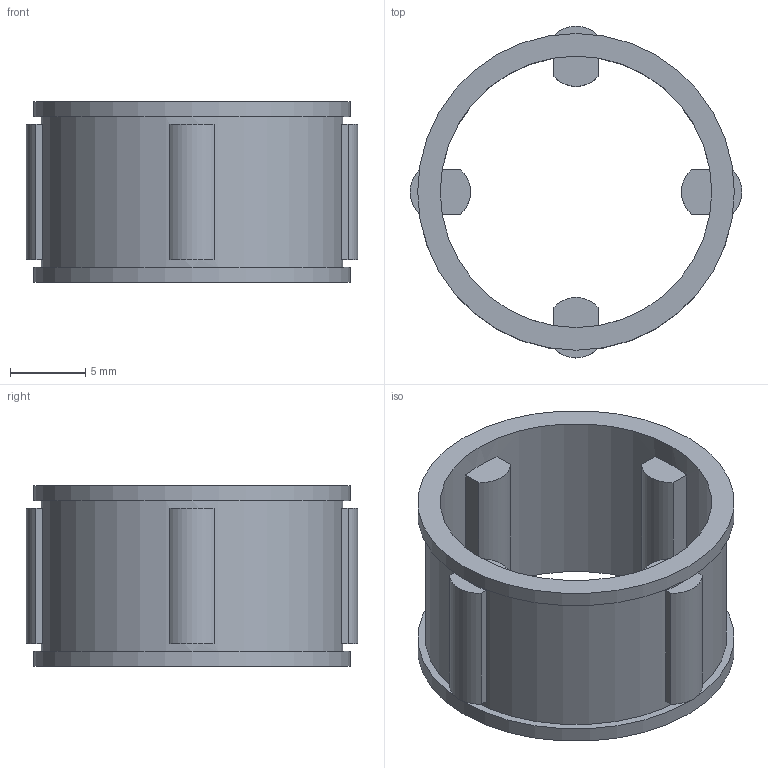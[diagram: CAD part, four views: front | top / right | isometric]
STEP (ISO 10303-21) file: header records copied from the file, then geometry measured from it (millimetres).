
FILE_DESCRIPTION(/* description */ (''),/* implementation_level */ '2;1');
FILE_NAME(/* name */ '300404 FE 422 M.stp',/* time_stamp */ '2016-11-03T08:20:26+01:00',/* author */ (''),/* organization */ (''),/* preprocessor_version */ 'ST-DEVELOPER v15',/* originating_system */ 'SIEMENS PLM Software NX 8.5',/* authorisation */ '');
FILE_SCHEMA (('CONFIG_CONTROL_DESIGN'));
Length unit declared in the file: millimetre
Products named in the file (1): ATE0000081_01
Bounding box: 22 x 22 x 12 mm (x, y, z)
Volume: 1055.9 mm3; surface area: 1895.7 mm2
Topology: 1 solids, 1 shells, 48 faces, 114 edges, 76 vertices
Faces by surface type: plane 36, cylinder 12
Full cylindrical faces by diameter (mm): 18 x1, 20 x1, 21 x2
Entity records: 1420 total; most frequent: DIRECTION 242, CARTESIAN_POINT 225, ORIENTED_EDGE 208, EDGE_CURVE 104, AXIS2_PLACEMENT_3D 89, VERTEX_POINT 72, LINE 64, VECTOR 64
